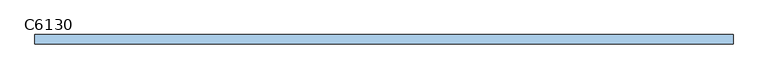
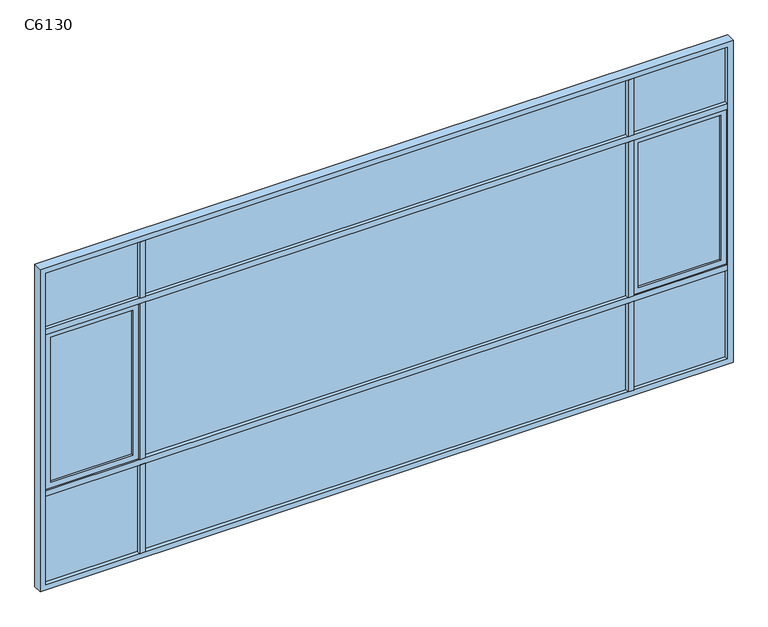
"""IFC4 building model written with IfcOpenShell, lengths in millimetres: window geometry, 组合窗 - 三层三列(平开+固定) : C6130."""

from ifc_helpers import new_model, si_unit, frame, origin, place, context, project, spatial, polyline, outline, extrude, source, transform, mapped, element, save


def c6130_3f99a6ba(model_context):
    return source(origin(), model_context, "Body", "SweptSolid", [
        extrude(outline(polyline([(2950.0, -10.0), (2225.0, -10.0), (2225.0, 0.0), (2950.0, 0.0), (2950.0, -10.0)])), frame((0.0, 0.0, 1275.0), z_axis=(0.0, 0.0, 1.0), x_axis=(1.0, 0.0, 0.0)), (0.0, 0.0, 1.0), 1350.0),
        extrude(outline(polyline([(2675.0, 3000.0), (2675.0, 2175.0), (1225.0, 2175.0), (1225.0, 3000.0), (2675.0, 3000.0)]), holes=[polyline([(1275.0, 2950.0), (1275.0, 2225.0), (2625.0, 2225.0), (2625.0, 2950.0), (1275.0, 2950.0)])]), frame((0.0, -30.0, 0.0), z_axis=(0.0, 1.0, 0.0), x_axis=(0.0, 0.0, 1.0)), (0.0, 0.0, 1.0), 50.0),
        extrude(outline(polyline([(2125.0, -10.0), (-2125.0, -10.0), (-2125.0, 0.0), (2125.0, 0.0), (2125.0, -10.0)])), frame((0.0, 0.0, 1225.0), z_axis=(0.0, 0.0, 1.0), x_axis=(1.0, 0.0, 0.0)), (0.0, 0.0, 1.0), 1450.0),
        extrude(outline(polyline([(3000.0, -10.0), (2175.0, -10.0), (2175.0, 0.0), (3000.0, 0.0), (3000.0, -10.0)])), frame((0.0, 0.0, 2725.0), z_axis=(0.0, 0.0, 1.0), x_axis=(1.0, 0.0, 0.0)), (0.0, 0.0, 1.0), 525.0),
        extrude(outline(polyline([(2125.0, -10.0), (-2125.0, -10.0), (-2125.0, 0.0), (2125.0, 0.0), (2125.0, -10.0)])), frame((0.0, 0.0, 2725.0), z_axis=(0.0, 0.0, 1.0), x_axis=(1.0, 0.0, 0.0)), (0.0, 0.0, 1.0), 525.0),
        extrude(outline(polyline([(-2175.0, -10.0), (-3000.0, -10.0), (-3000.0, 0.0), (-2175.0, 0.0), (-2175.0, -10.0)])), frame((0.0, 0.0, 2725.0), z_axis=(0.0, 0.0, 1.0), x_axis=(1.0, 0.0, 0.0)), (0.0, 0.0, 1.0), 525.0),
        extrude(outline(polyline([(-2175.0, -10.0), (-3000.0, -10.0), (-3000.0, 0.0), (-2175.0, 0.0), (-2175.0, -10.0)])), frame((0.0, 0.0, 350.0), z_axis=(0.0, 0.0, 1.0), x_axis=(1.0, 0.0, 0.0)), (0.0, 0.0, 1.0), 825.0),
        extrude(outline(polyline([(2125.0, -10.0), (-2125.0, -10.0), (-2125.0, 0.0), (2125.0, 0.0), (2125.0, -10.0)])), frame((0.0, 0.0, 350.0), z_axis=(0.0, 0.0, 1.0), x_axis=(1.0, 0.0, 0.0)), (0.0, 0.0, 1.0), 825.0),
        extrude(outline(polyline([(-2225.0, -10.0), (-2950.0, -10.0), (-2950.0, 0.0), (-2225.0, 0.0), (-2225.0, -10.0)])), frame((0.0, 0.0, 1275.0), z_axis=(0.0, 0.0, 1.0), x_axis=(1.0, 0.0, 0.0)), (0.0, 0.0, 1.0), 1350.0),
        extrude(outline(polyline([(2675.0, -2175.0), (2675.0, -3000.0), (1225.0, -3000.0), (1225.0, -2175.0), (2675.0, -2175.0)]), holes=[polyline([(1275.0, -2225.0), (1275.0, -2950.0), (2625.0, -2950.0), (2625.0, -2225.0), (1275.0, -2225.0)])]), frame((0.0, -30.0, 0.0), z_axis=(0.0, 1.0, 0.0), x_axis=(0.0, 0.0, 1.0)), (0.0, 0.0, 1.0), 50.0),
        extrude(outline(polyline([(3000.0, -10.0), (2175.0, -10.0), (2175.0, 0.0), (3000.0, 0.0), (3000.0, -10.0)])), frame((0.0, 0.0, 350.0), z_axis=(0.0, 0.0, 1.0), x_axis=(1.0, 0.0, 0.0)), (0.0, 0.0, 1.0), 825.0),
        extrude(outline(polyline([(2125.0, 35.0), (2175.0, 35.0), (2175.0, -45.0), (2125.0, -45.0), (2125.0, 35.0)])), frame((0.0, 0.0, 1225.0), z_axis=(0.0, 0.0, 1.0), x_axis=(1.0, 0.0, 0.0)), (0.0, 0.0, 1.0), 1450.0),
        extrude(outline(polyline([(-2175.0, 35.0), (-2125.0, 35.0), (-2125.0, -45.0), (-2175.0, -45.0), (-2175.0, 35.0)])), frame((0.0, 0.0, 1225.0), z_axis=(0.0, 0.0, 1.0), x_axis=(1.0, 0.0, 0.0)), (0.0, 0.0, 1.0), 1450.0),
        extrude(outline(polyline([(2125.0, 35.0), (2175.0, 35.0), (2175.0, -45.0), (2125.0, -45.0), (2125.0, 35.0)])), frame((0.0, 0.0, 350.0), z_axis=(0.0, 0.0, 1.0), x_axis=(1.0, 0.0, 0.0)), (0.0, 0.0, 1.0), 825.0),
        extrude(outline(polyline([(-2175.0, 35.0), (-2125.0, 35.0), (-2125.0, -45.0), (-2175.0, -45.0), (-2175.0, 35.0)])), frame((0.0, 0.0, 350.0), z_axis=(0.0, 0.0, 1.0), x_axis=(1.0, 0.0, 0.0)), (0.0, 0.0, 1.0), 825.0),
        extrude(outline(polyline([(2125.0, 35.0), (2175.0, 35.0), (2175.0, -45.0), (2125.0, -45.0), (2125.0, 35.0)])), frame((0.0, 0.0, 2725.0), z_axis=(0.0, 0.0, 1.0), x_axis=(1.0, 0.0, 0.0)), (0.0, 0.0, 1.0), 525.0),
        extrude(outline(polyline([(-2175.0, 35.0), (-2125.0, 35.0), (-2125.0, -45.0), (-2175.0, -45.0), (-2175.0, 35.0)])), frame((0.0, 0.0, 2725.0), z_axis=(0.0, 0.0, 1.0), x_axis=(1.0, 0.0, 0.0)), (0.0, 0.0, 1.0), 525.0),
        extrude(outline(polyline([(-3000.0, 35.0), (3000.0, 35.0), (3000.0, -45.0), (-3000.0, -45.0), (-3000.0, 35.0)])), frame((0.0, 0.0, 1175.0), z_axis=(0.0, 0.0, 1.0), x_axis=(1.0, 0.0, 0.0)), (0.0, 0.0, 1.0), 50.0),
        extrude(outline(polyline([(-3000.0, 35.0), (3000.0, 35.0), (3000.0, -45.0), (-3000.0, -45.0), (-3000.0, 35.0)])), frame((0.0, 0.0, 2675.0), z_axis=(0.0, 0.0, 1.0), x_axis=(1.0, 0.0, 0.0)), (0.0, 0.0, 1.0), 50.0),
        extrude(outline(polyline([(3300.0, -3050.0), (300.0, -3050.0), (300.0, 3050.0), (3300.0, 3050.0), (3300.0, -3050.0)]), holes=[polyline([(3250.0, 3000.0), (350.0, 3000.0), (350.0, -3000.0), (3250.0, -3000.0), (3250.0, 3000.0)])]), frame((0.0, -45.0, 0.0), z_axis=(0.0, 1.0, 0.0), x_axis=(0.0, 0.0, 1.0)), (0.0, 0.0, 1.0), 80.0),
    ])


if __name__ == "__main__":
    model = new_model("IFC4")
    model_context = context("Model", 3, world=origin())
    ifc_project = project(units=[si_unit("LENGTHUNIT", "METRE", prefix="MILLI")], contexts=[model_context])
    site = spatial("IfcSite", under=ifc_project)
    building = spatial("IfcBuilding", under=site)
    placement = place(None, origin())
    c6130_shape = c6130_3f99a6ba(model_context)
    element("IfcWindow", 1, ObjectType="组合窗 - 三层三列(平开+固定) : C6130", at=placement, inside=building, context=model_context, shape_type="MappedRepresentation", body=[
        mapped(c6130_shape, transform((0.0, 0.0, 0.0), x_axis=(1.0, 0.0, 0.0), y_axis=(0.0, 1.0, 0.0), z_axis=(0.0, 0.0, 1.0))),
    ])
    save(model, "model.ifc")
